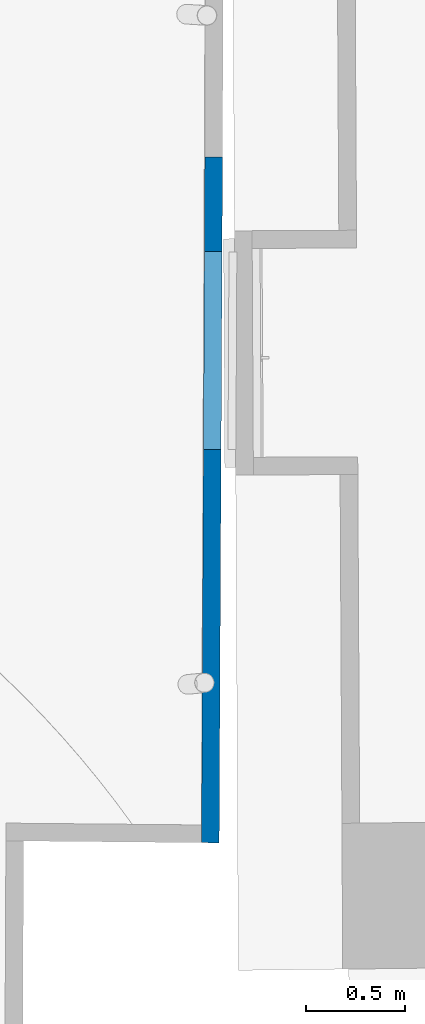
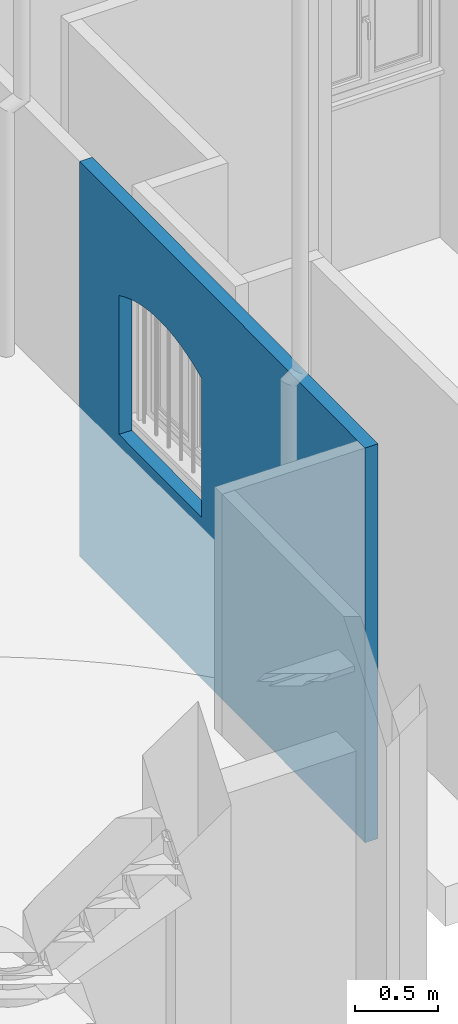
# One storey, part 25 of 133: 1 wall, 1 opening.
"""IFC2X3 building model written with IfcOpenShell, lengths in centimetres."""

from ifc_helpers import new_model, entity, si_unit, converted_unit, point, direction, frame, frame_2d, origin, origin_with_axes, place, context, subcontext, project, spatial, polyline, circle_curve, trimmed, segment, composite_curve, outline, extrude, shape, material, layer, layer_set, layer_usage, type_object, element, save


model = new_model("IFC2X3")

# Units and contexts
model_context = context("Model", 3, precision=0.0001, world=origin(), true_north=direction((0.225632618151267, 0.974212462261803, 0.0)))
body_context = subcontext(model_context, "Body", "Model", "MODEL_VIEW")
footprint_context = subcontext(model_context, "FootPrint", "Model", "MODEL_VIEW")
profile_context = subcontext(model_context, "Profile", "Model", "MODEL_VIEW")
ifc_project = project(units=[si_unit("LENGTHUNIT", "METRE", prefix="CENTI"), si_unit("AREAUNIT", "SQUARE_METRE", prefix="CENTI"), si_unit("VOLUMEUNIT", "CUBIC_METRE", prefix="CENTI"), converted_unit("PLANEANGLEUNIT", "DEGREE", entity("IfcRatioMeasure", 0.0174532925), si_unit("PLANEANGLEUNIT", "RADIAN"), dimensions=[0, 0, 0, 0, 0, 0, 0])], contexts=[model_context])

# Site, building, storey
site_placement = place(None, origin_with_axes())
site = spatial("IfcSite", under=ifc_project, at=site_placement, Name="Default Site", CompositionType="ELEMENT")
building_placement = place(site_placement, origin_with_axes())
building = spatial("IfcBuilding", under=site, at=building_placement, Name="Default Building", CompositionType="ELEMENT")
storey_placement = place(building_placement, frame((0.0, 0.0, -291.400371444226), z_axis=(0.0, 0.0, 1.0), x_axis=(1.0, 0.0, 0.0)))
storey = spatial("IfcBuildingStorey", under=building, at=storey_placement, Name="Rez-de-Jardin", CompositionType="ELEMENT", Elevation=-291.400371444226)

# Wall, opening
ifc_material = material(Name="<aucun>")
ifc_layer = layer(ifc_material, 9.0)
ifc_layer_set = layer_set([ifc_layer], Name="default")
ifc_layer_usage = layer_usage(ifc_layer_set, "AXIS2", "POSITIVE", -4.5)
wall_type = type_object("IfcWallType", Name="default 90", PredefinedType="NOTDEFINED", material=ifc_layer_set)
wall_placement = place(storey_placement, frame((-1262.95421506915, 219.756153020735, -1.94511073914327e-11), z_axis=(0.0, 0.0, 1.0), x_axis=(0.0048785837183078, 0.999988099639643, 0.0)))
wall = element("IfcWallStandardCase", 1, at=wall_placement, inside=storey, type_object=wall_type, material=ifc_layer_usage, Name="Enveloppe 310342", context=body_context, shape_type="SweptSolid", body=[
    extrude(outline(polyline([(-8.99816603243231, 4.49999999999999), (-9.0394528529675, -4.50000000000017), (338.971304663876, -4.49999999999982), (338.971304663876, 4.50000000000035), (-8.99816603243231, 4.49999999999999)])), origin_with_axes(), (0.0, 0.0, 1.0), 291.413221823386),
])
opening_placement = place(wall_placement, frame((190.591486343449, 2.27373675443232e-13, 119.019380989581), z_axis=(0.0, 0.0, 1.0), x_axis=(-1.0, -1.20736753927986e-15, 0.0)))
cartesian_point_1 = entity("IfcCartesianPoint", [0.0, 0.0, 102.580862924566])
cartesian_point_2 = entity("IfcCartesianPoint", [-100.412164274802, 0.0, 102.580862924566])
cartesian_point_3 = entity("IfcCartesianPoint", [-100.412164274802, -4.49999999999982])
element("IfcOpeningElement", 2, at=opening_placement, cuts=wall, Name="4294966550_12", ObjectType="Opening", shapes=[
    shape(body_context, "Body", "SweptSolid", [extrude(outline(composite_curve([segment(polyline([(8.88178419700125e-14, 102.580862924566), (8.88178419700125e-14, 0.0), (100.412164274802, 0.0), (100.412164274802, 102.580862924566)]), True, "CONTINUOUS"), segment(trimmed(circle_curve(frame_2d((50.206082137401, -0.342585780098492), x_axis=(1.0, 0.0)), 114.515880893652), [point((100.412164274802, 102.580862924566))], [point((8.88178419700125e-14, 102.580862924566))], True, "CARTESIAN"), True, "CONTINUOUS")], self_intersect=False)), frame((0.0, -14.5, 0.0), z_axis=(0.0, 1.0, 0.0), x_axis=(-1.0, 0.0, 0.0)), (0.0, 0.0, 1.0), 29.0)]),
    shape(profile_context, "Profile", "GeometricCurveSet", [entity("IfcGeometricCurveSet", [entity("IfcCompositeCurve", [entity("IfcCompositeCurveSegment", "CONTINUOUS", True, entity("IfcPolyline", [cartesian_point_1, entity("IfcCartesianPoint", [0.0, 0.0, 0.0]), entity("IfcCartesianPoint", [-100.412164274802, 0.0, 0.0]), cartesian_point_2])), entity("IfcCompositeCurveSegment", "CONTINUOUS", True, entity("IfcTrimmedCurve", entity("IfcCircle", entity("IfcAxis2Placement3D", entity("IfcCartesianPoint", [-50.206082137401, 0.0, -0.342585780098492]), entity("IfcDirection", [0.0, 1.0, 0.0]), entity("IfcDirection", [1.0, 0.0, 0.0])), 114.515880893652), [cartesian_point_2], [cartesian_point_1], True, "CARTESIAN"))], False)])]),
    shape(footprint_context, "FootPrint", "GeometricCurveSet", [entity("IfcGeometricCurveSet", [entity("IfcPolyline", [cartesian_point_3, entity("IfcCartesianPoint", [-8.88178419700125e-14, -4.49999999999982]), entity("IfcCartesianPoint", [0.0, 4.49999999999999]), entity("IfcCartesianPoint", [-100.412164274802, 4.49999999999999]), cartesian_point_3])])]),
])

save(model, "model.ifc")
